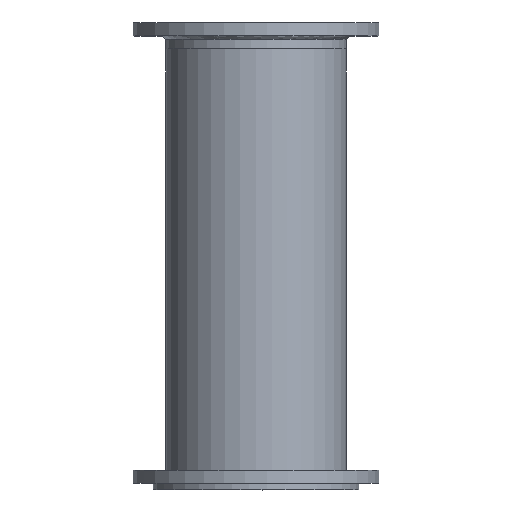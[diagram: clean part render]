
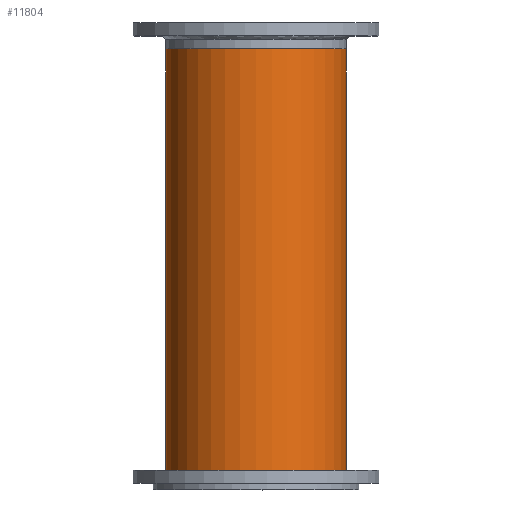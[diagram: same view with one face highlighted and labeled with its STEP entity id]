
A CAD part, top view. The second image highlights one B-rep face of the part: STEP entity #11804.
In plain terms, the highlighted cylindrical face has radius 176.276 mm (diameter 352.552 mm), a full revolution.
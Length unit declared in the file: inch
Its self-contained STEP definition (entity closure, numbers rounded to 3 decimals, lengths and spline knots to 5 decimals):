
#11777=CARTESIAN_POINT('',(0.0,0.0,0.0));
#11778=DIRECTION('',(0.0,0.0,1.0));
#11779=DIRECTION('',(-1.0,0.0,0.0));
#11780=AXIS2_PLACEMENT_3D('',#11777,#11778,#11779);
#11781=CYLINDRICAL_SURFACE('',#11780,6.94);
#11782=CARTESIAN_POINT('',(6.94,0.,34.4375));
#11783=VERTEX_POINT('',#11782);
#11784=CARTESIAN_POINT('',(0.0,0.0,34.4375));
#11785=DIRECTION('',(0.0,0.0,-1.0));
#11786=DIRECTION('',(-1.0,0.0,0.0));
#11787=AXIS2_PLACEMENT_3D('',#11784,#11785,#11786);
#11788=CIRCLE('',#11787,6.94);
#11789=EDGE_CURVE('',#11783,#11783,#11788,.T.);
#11790=ORIENTED_EDGE('',*,*,#11789,.T.);
#11791=EDGE_LOOP('',(#11790));
#11792=FACE_OUTER_BOUND('',#11791,.T.);
#11793=CARTESIAN_POINT('',(6.94,0.,0.0));
#11794=VERTEX_POINT('',#11793);
#11795=CARTESIAN_POINT('',(0.0,0.0,0.0));
#11796=DIRECTION('',(0.0,0.0,-1.0));
#11797=DIRECTION('',(-1.0,0.0,0.0));
#11798=AXIS2_PLACEMENT_3D('',#11795,#11796,#11797);
#11799=CIRCLE('',#11798,6.94);
#11800=EDGE_CURVE('',#11794,#11794,#11799,.T.);
#11801=ORIENTED_EDGE('',*,*,#11800,.F.);
#11802=EDGE_LOOP('',(#11801));
#11803=FACE_BOUND('',#11802,.T.);
#11804=ADVANCED_FACE('',(#11792,#11803),#11781,.T.);
